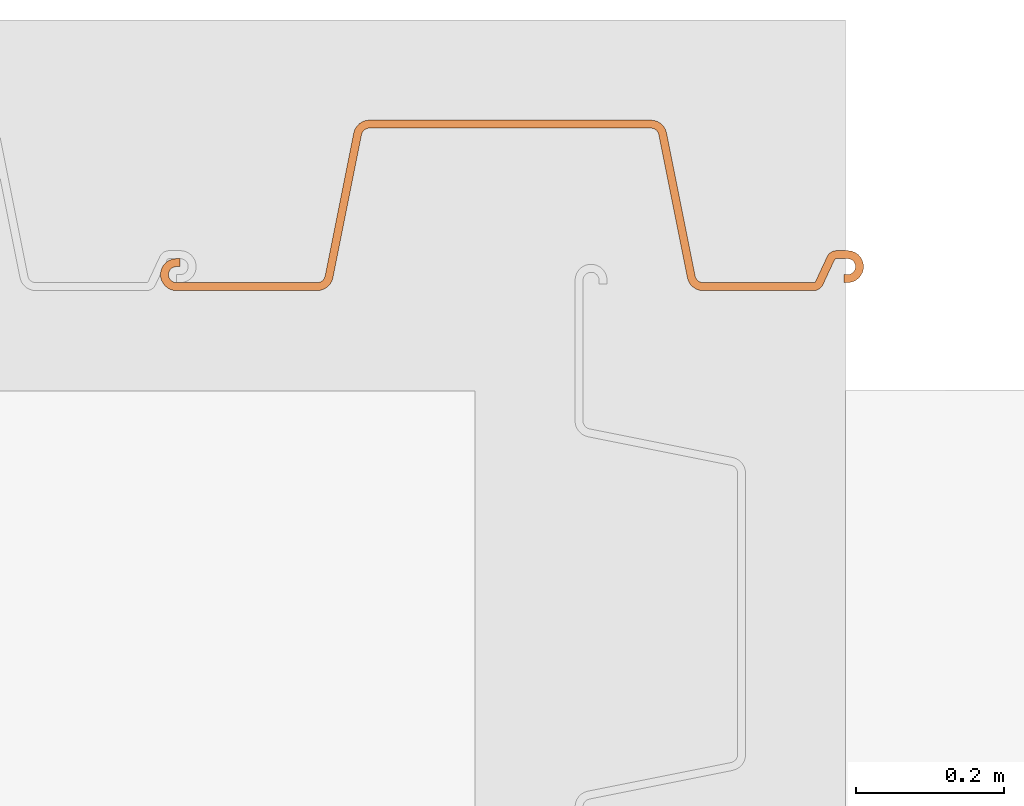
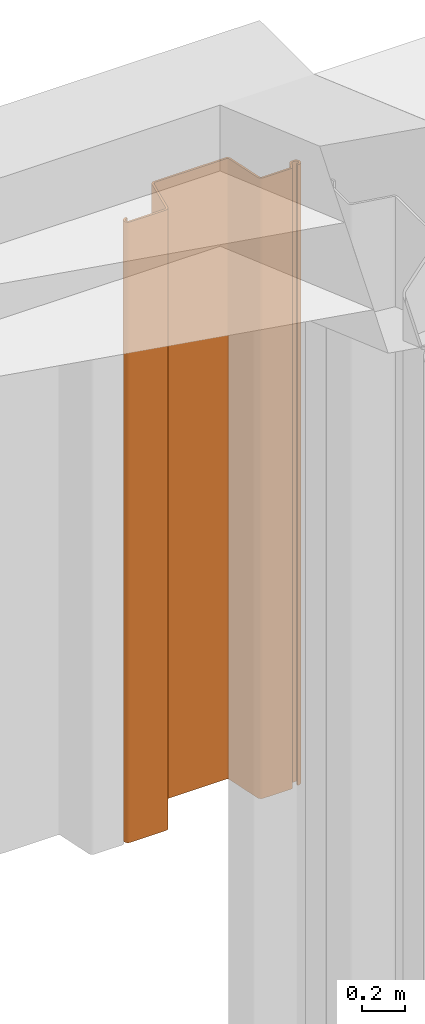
# One storey, part 32 of 32: 1 proxy.
"""IFC2X3 building model written with IfcOpenShell, lengths in millimetres."""

from ifc_helpers import new_model, entity, si_unit, converted_unit, derived_unit, direction, frame, frame_2d, origin, place, context, subcontext, project, spatial, polyline, circle_curve, parameter, trimmed, segment, composite_curve, outline, extrude, source, transform, mapped, type_object, type_shapes, element, save


model = new_model("IFC2X3")

# Units and contexts
model_context = context("Model", 3, precision=0.01, world=origin(), true_north=direction((6.12303176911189e-17, 1.0)))
body_context = subcontext(model_context, "Body", "Model", "MODEL_VIEW")
ifc_project = project(units=[si_unit("LENGTHUNIT", "METRE", prefix="MILLI"), si_unit("AREAUNIT", "SQUARE_METRE"), si_unit("VOLUMEUNIT", "CUBIC_METRE"), converted_unit("PLANEANGLEUNIT", "DEGREE", entity("IfcRatioMeasure", 0.0174532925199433), si_unit("PLANEANGLEUNIT", "RADIAN"), dimensions=[0, 0, 0, 0, 0, 0, 0]), si_unit("MASSUNIT", "GRAM", prefix="KILO"), derived_unit("MASSDENSITYUNIT", [(si_unit("MASSUNIT", "GRAM", prefix="KILO"), 1), (si_unit("LENGTHUNIT", "METRE"), -3)]), si_unit("TIMEUNIT", "SECOND"), si_unit("FREQUENCYUNIT", "HERTZ"), si_unit("THERMODYNAMICTEMPERATUREUNIT", "DEGREE_CELSIUS"), derived_unit("THERMALTRANSMITTANCEUNIT", [(si_unit("MASSUNIT", "GRAM", prefix="KILO"), 1), (si_unit("THERMODYNAMICTEMPERATUREUNIT", "KELVIN"), -1), (si_unit("TIMEUNIT", "SECOND"), -3)]), derived_unit("VOLUMETRICFLOWRATEUNIT", [(si_unit("LENGTHUNIT", "METRE"), 3), (si_unit("TIMEUNIT", "SECOND"), -1)]), si_unit("ELECTRICCURRENTUNIT", "AMPERE"), si_unit("ELECTRICVOLTAGEUNIT", "VOLT"), si_unit("POWERUNIT", "WATT"), si_unit("FORCEUNIT", "NEWTON", prefix="KILO"), si_unit("ILLUMINANCEUNIT", "LUX"), si_unit("LUMINOUSFLUXUNIT", "LUMEN"), si_unit("LUMINOUSINTENSITYUNIT", "CANDELA"), derived_unit("USERDEFINED", [(si_unit("MASSUNIT", "GRAM", prefix="KILO"), -1), (si_unit("LENGTHUNIT", "METRE"), -2), (si_unit("TIMEUNIT", "SECOND"), 3), (si_unit("LUMINOUSFLUXUNIT", "LUMEN"), 1)]), derived_unit("LINEARVELOCITYUNIT", [(si_unit("LENGTHUNIT", "METRE"), 1), (si_unit("TIMEUNIT", "SECOND"), -1)]), si_unit("PRESSUREUNIT", "PASCAL"), derived_unit("USERDEFINED", [(si_unit("LENGTHUNIT", "METRE"), -2), (si_unit("MASSUNIT", "GRAM", prefix="KILO"), 1), (si_unit("TIMEUNIT", "SECOND"), -2)])], contexts=[model_context])

# Site, building, storey
site_placement = place(None, origin())
site = spatial("IfcSite", under=ifc_project, at=site_placement, Name="Default", CompositionType="ELEMENT")
building_placement = place(site_placement, origin())
building = spatial("IfcBuilding", under=site, at=building_placement, CompositionType="ELEMENT")
storey_placement = place(building_placement, origin())
storey = spatial("IfcBuildingStorey", under=building, at=storey_placement, Name="矢板", CompositionType="ELEMENT", Elevation=0.0)

# Proxy
building_element_proxy_type = type_object("IfcBuildingElementProxyType", Name="鋼矢板10H型", PredefinedType="NOTDEFINED")
shared_shape = source(origin(), body_context, "Body", "SweptSolid", [
    extrude(outline(composite_curve([segment(trimmed(circle_curve(frame_2d((85.3662976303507, 306.644432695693), x_axis=(0.422618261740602, 0.906307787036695)), 13.885714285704), [parameter(24.9999999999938)], [parameter(90.0000000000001)], True, "PARAMETER"), True, "CONTINUOUS"), segment(polyline([(72.7815666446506, 312.512789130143), (9.8129512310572, 177.476157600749)]), True, "CONTINUOUS"), segment(trimmed(circle_curve(frame_2d((29.3891994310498, 168.347603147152), x_axis=(0.422618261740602, 0.906307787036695)), 21.6), [parameter(90.0000000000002)], [parameter(168.69006752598)], True, "PARAMETER"), True, "CONTINUOUS"), segment(polyline([(16.598697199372, 150.941769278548), (175.329723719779, 34.2998683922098)]), True, "CONTINUOUS"), segment(trimmed(circle_curve(frame_2d((168.93447260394, 25.596951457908), x_axis=(0.422618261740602, 0.906307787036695)), 10.7999999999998), [parameter(270.0)], [parameter(348.690067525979)], True, "PARAMETER"), False, "CONTINUOUS"), segment(polyline([(178.722596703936, 21.0326742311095), (18.2974003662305, -323.000269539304)]), True, "CONTINUOUS"), segment(trimmed(circle_curve(frame_2d((8.50927626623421, -318.435992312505), x_axis=(0.422618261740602, 0.906307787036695)), 10.8), [parameter(191.30993247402)], [parameter(269.999999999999)], True, "PARAMETER"), False, "CONTINUOUS"), segment(polyline([(5.95324328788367, -328.929166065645), (-185.429973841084, -282.310113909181)]), True, "CONTINUOUS"), segment(trimmed(circle_curve(frame_2d((-190.542039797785, -303.296461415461), x_axis=(0.422618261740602, 0.906307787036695)), 21.6000000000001), [parameter(11.3099324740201)], [parameter(90.0000000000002)], True, "PARAMETER"), True, "CONTINUOUS"), segment(polyline([(-210.118287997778, -294.167906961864), (-290.330886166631, -466.184378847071)]), True, "CONTINUOUS"), segment(trimmed(circle_curve(frame_2d((-270.754637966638, -475.312933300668), x_axis=(0.422618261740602, 0.906307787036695)), 21.6), [parameter(90.0000000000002)], [parameter(269.999999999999)], True, "PARAMETER"), True, "CONTINUOUS"), segment(polyline([(-251.178389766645, -484.441487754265), (-249.065298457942, -479.909948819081)]), True, "CONTINUOUS"), segment(polyline([(-249.065298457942, -479.909948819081), (-258.853422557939, -475.345671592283)]), True, "CONTINUOUS"), segment(polyline([(-258.853422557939, -475.345671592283), (-260.966513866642, -479.877210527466)]), True, "CONTINUOUS"), segment(trimmed(circle_curve(frame_2d((-270.754637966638, -475.312933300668), x_axis=(0.422618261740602, 0.906307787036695)), 10.8), [parameter(90.0000000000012)], [parameter(270.0)], True, "PARAMETER"), False, "CONTINUOUS"), segment(polyline([(-280.542762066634, -470.748656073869), (-200.330163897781, -298.732184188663)]), True, "CONTINUOUS"), segment(trimmed(circle_curve(frame_2d((-190.542039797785, -303.296461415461), x_axis=(0.422618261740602, 0.906307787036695)), 10.8), [parameter(11.3099324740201)], [parameter(89.9999999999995)], True, "PARAMETER"), False, "CONTINUOUS"), segment(polyline([(-187.986006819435, -292.803287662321), (3.39721030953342, -339.422339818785)]), True, "CONTINUOUS"), segment(trimmed(circle_curve(frame_2d((8.50927626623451, -318.435992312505), x_axis=(0.422618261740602, 0.906307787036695)), 21.6), [parameter(191.30993247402)], [parameter(270.0)], True, "PARAMETER"), True, "CONTINUOUS"), segment(polyline([(28.0855244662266, -327.564546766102), (188.510720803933, 16.4683970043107)]), True, "CONTINUOUS"), segment(trimmed(circle_curve(frame_2d((168.93447260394, 25.5969514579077), x_axis=(0.422618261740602, 0.906307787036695)), 21.6), [parameter(270.0)], [parameter(348.69006752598)], True, "PARAMETER"), True, "CONTINUOUS"), segment(polyline([(181.724974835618, 43.0027853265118), (22.9939483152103, 159.644686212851)]), True, "CONTINUOUS"), segment(trimmed(circle_curve(frame_2d((29.3891994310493, 168.347603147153), x_axis=(0.422618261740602, 0.906307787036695)), 10.7999999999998), [parameter(89.9999999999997)], [parameter(168.690067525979)], True, "PARAMETER"), False, "CONTINUOUS"), segment(polyline([(19.6010753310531, 172.911880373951), (82.5696907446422, 307.948511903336)]), True, "CONTINUOUS"), segment(trimmed(circle_curve(frame_2d((85.3662976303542, 306.64443269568), x_axis=(0.422618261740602, 0.906307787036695)), 3.08571428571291), [parameter(25.0000000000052)], [parameter(90.0000000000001)], True, "PARAMETER"), False, "CONTINUOUS"), segment(polyline([(85.3662976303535, 309.730146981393), (122.220231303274, 309.730146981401)]), True, "CONTINUOUS"), segment(trimmed(circle_curve(frame_2d((122.220231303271, 323.615861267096), x_axis=(0.422618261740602, 0.906307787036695)), 13.8857142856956), [parameter(205.000000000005)], [parameter(270.0)], True, "PARAMETER"), True, "CONTINUOUS"), segment(polyline([(134.804962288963, 317.747504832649), (141.079261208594, 331.202782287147)]), True, "CONTINUOUS"), segment(trimmed(circle_curve(frame_2d((121.503013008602, 340.331336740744), x_axis=(0.422618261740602, 0.906307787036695)), 21.6), [parameter(270.0)], [parameter(90.0000000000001)], True, "PARAMETER"), True, "CONTINUOUS"), segment(polyline([(101.926764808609, 349.459891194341), (99.8136734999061, 344.928352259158)]), True, "CONTINUOUS"), segment(polyline([(99.8136734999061, 344.928352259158), (109.601797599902, 340.364075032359)]), True, "CONTINUOUS"), segment(polyline([(109.601797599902, 340.364075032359), (111.714888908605, 344.895613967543)]), True, "CONTINUOUS"), segment(trimmed(circle_curve(frame_2d((121.503013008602, 340.331336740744), x_axis=(0.422618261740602, 0.906307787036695)), 10.8), [parameter(270.0)], [parameter(89.9999999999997)], True, "PARAMETER"), False, "CONTINUOUS"), segment(polyline([(131.291137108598, 335.767059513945), (125.01683818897, 322.311782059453)]), True, "CONTINUOUS"), segment(trimmed(circle_curve(frame_2d((122.220231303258, 323.615861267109), x_axis=(0.422618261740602, 0.906307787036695)), 3.08571428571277), [parameter(204.999999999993)], [parameter(270.0)], True, "PARAMETER"), False, "CONTINUOUS"), segment(polyline([(122.220231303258, 320.530146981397), (85.3662976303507, 320.530146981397)]), True, "CONTINUOUS")], self_intersect=False)), frame((95.205667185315, -48.8888888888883, -3500.0), z_axis=(0.0, 0.0, -1.0), x_axis=(0.4226182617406, 0.906307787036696, 0.0)), (0.0, 0.0, -1.0), 3500.0),
])
type_shapes(building_element_proxy_type, [shared_shape])
proxy_placement = place(storey_placement, frame((148297.5, 28702.0, 7600.0)))
element("IfcBuildingElementProxy", 1, at=proxy_placement, inside=storey, type_object=building_element_proxy_type, Name="鋼矢板10H型:鋼矢板10H型", ObjectType="鋼矢板10H型:鋼矢板10H型", context=body_context, shape_type="MappedRepresentation", body=[
    mapped(shared_shape, transform((0.0, 0.0, 0.0), scale=1.0)),
])

save(model, "model.ifc")
